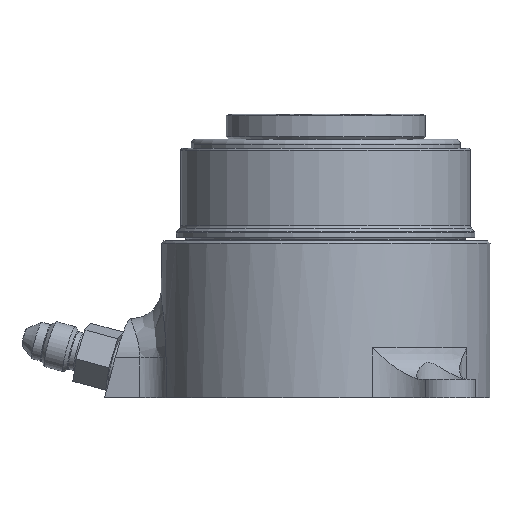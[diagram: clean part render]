
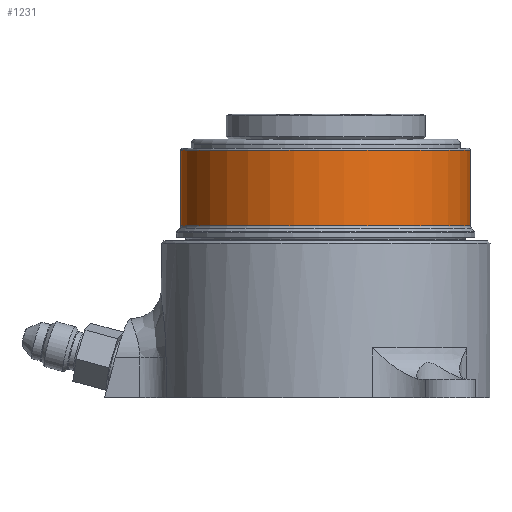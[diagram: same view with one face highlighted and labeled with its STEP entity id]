
A CAD part, left-side view. The second image highlights one B-rep face of the part: STEP entity #1231.
In plain terms, the highlighted cylindrical face has radius 29.591 mm (diameter 59.182 mm), a full revolution.
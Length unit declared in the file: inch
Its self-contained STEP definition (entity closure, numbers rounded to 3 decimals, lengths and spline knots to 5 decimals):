
#947 = EDGE_CURVE( '', #2136, #2136, #2137, .T. );
#1231 = ADVANCED_FACE( '', ( #2542, #2543 ), #2544, .T. );
#1264 = EDGE_CURVE( '', #2588, #2588, #2589, .T. );
#2136 = VERTEX_POINT( '', #4476 );
#2137 = CIRCLE( '', #4477, 1.165 );
#2542 = FACE_OUTER_BOUND( '', #5348, .T. );
#2543 = FACE_OUTER_BOUND( '', #5349, .T. );
#2544 = CYLINDRICAL_SURFACE( '', #5350, 1.165 );
#2588 = VERTEX_POINT( '', #5438 );
#2589 = CIRCLE( '', #5439, 1.165 );
#4476 = CARTESIAN_POINT( '', ( 0.98136, -0.62782, 2.33272 ) );
#4477 = AXIS2_PLACEMENT_3D( '', #6633, #6634, #6635 );
#5348 = EDGE_LOOP( '', ( #7240 ) );
#5349 = EDGE_LOOP( '', ( #7241 ) );
#5350 = AXIS2_PLACEMENT_3D( '', #7242, #7243, #7244 );
#5438 = CARTESIAN_POINT( '', ( 0.98136, -0.62782, 2.938 ) );
#5439 = AXIS2_PLACEMENT_3D( '', #7300, #7301, #7302 );
#6633 = CARTESIAN_POINT( '', ( 0., 0., 2.33272 ) );
#6634 = DIRECTION( '', ( 0., 0., 1. ) );
#6635 = DIRECTION( '', ( 0.842, -0.539, 0. ) );
#7240 = ORIENTED_EDGE( '', *, *, #1264, .T. );
#7241 = ORIENTED_EDGE( '', *, *, #947, .T. );
#7242 = CARTESIAN_POINT( '', ( 0., 0., 2.52737 ) );
#7243 = DIRECTION( '', ( 0., 0., -1. ) );
#7244 = DIRECTION( '', ( 0.842, -0.539, 0. ) );
#7300 = CARTESIAN_POINT( '', ( 0., 0., 2.938 ) );
#7301 = DIRECTION( '', ( 0., 0., -1. ) );
#7302 = DIRECTION( '', ( 0.842, -0.539, 0. ) );
